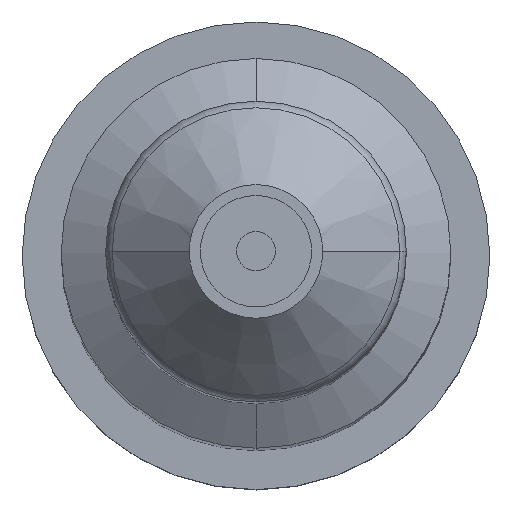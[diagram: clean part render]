
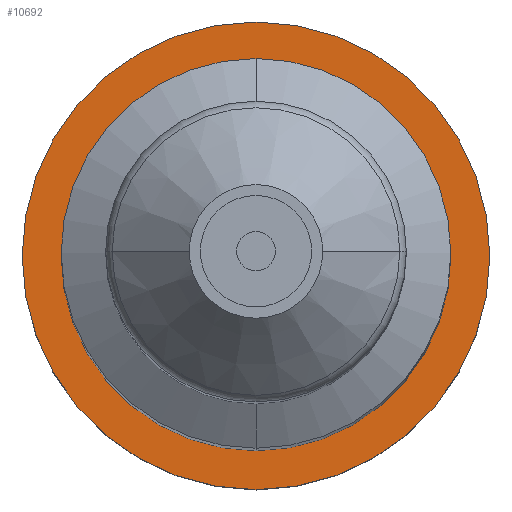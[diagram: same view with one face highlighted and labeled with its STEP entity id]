
A CAD part, top view. The second image highlights one B-rep face of the part: STEP entity #10692.
In plain terms, the highlighted planar face has unit normal (0, 0, 1).
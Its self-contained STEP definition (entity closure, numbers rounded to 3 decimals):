
#846 = FACE_OUTER_BOUND ( 'NONE', #22839, .T. ) ;
#1830 = ORIENTED_EDGE ( 'NONE', *, *, #21666, .F. ) ;
#2147 = VERTEX_POINT ( 'NONE', #26293 ) ;
#3485 = CARTESIAN_POINT ( 'NONE',  ( 0., 0., 15. ) ) ;
#3744 = DIRECTION ( 'NONE',  ( 0., 0., 1. ) ) ;
#3834 = DIRECTION ( 'NONE',  ( -1., 0., 0. ) ) ;
#4795 = DIRECTION ( 'NONE',  ( -1., 0., 0. ) ) ;
#6330 = FACE_BOUND ( 'NONE', #11107, .T. ) ;
#6537 = AXIS2_PLACEMENT_3D ( 'NONE', #8574, #16722, #4795 ) ;
#7598 = EDGE_CURVE ( 'NONE', #18248, #2147, #21792, .T. ) ;
#8081 = DIRECTION ( 'NONE',  ( 1., 0., 0. ) ) ;
#8574 = CARTESIAN_POINT ( 'NONE',  ( 0., 0., 15. ) ) ;
#8688 = CARTESIAN_POINT ( 'NONE',  ( 13.5, 0., 15. ) ) ;
#10692 = ADVANCED_FACE ( 'NONE', ( #6330, #846 ), #16643, .T. ) ;
#11107 = EDGE_LOOP ( 'NONE', ( #1830, #19446 ) ) ;
#11781 = AXIS2_PLACEMENT_3D ( 'NONE', #8688, #12680, #12587 ) ;
#12587 = DIRECTION ( 'NONE',  ( -1., 0., 0. ) ) ;
#12680 = DIRECTION ( 'NONE',  ( 0., 0., 1. ) ) ;
#12789 = ORIENTED_EDGE ( 'NONE', *, *, #22126, .F. ) ;
#13222 = CARTESIAN_POINT ( 'NONE',  ( 0., 0., 15. ) ) ;
#14004 = EDGE_CURVE ( 'NONE', #20734, #14629, #16395, .T. ) ;
#14149 = CIRCLE ( 'NONE', #6537, 17.5 ) ;
#14165 = DIRECTION ( 'NONE',  ( 0., 0., -1. ) ) ;
#14603 = ORIENTED_EDGE ( 'NONE', *, *, #14004, .F. ) ;
#14629 = VERTEX_POINT ( 'NONE', #23928 ) ;
#15304 = DIRECTION ( 'NONE',  ( 0., 0., -1. ) ) ;
#15514 = CARTESIAN_POINT ( 'NONE',  ( 21., 0., 15. ) ) ;
#15742 = CIRCLE ( 'NONE', #20571, 21. ) ;
#16395 = CIRCLE ( 'NONE', #17973, 21. ) ;
#16643 = PLANE ( 'NONE',  #11781 ) ;
#16722 = DIRECTION ( 'NONE',  ( 0., 0., 1. ) ) ;
#16862 = AXIS2_PLACEMENT_3D ( 'NONE', #3485, #3744, #3834 ) ;
#17973 = AXIS2_PLACEMENT_3D ( 'NONE', #13222, #15304, #19635 ) ;
#18248 = VERTEX_POINT ( 'NONE', #25103 ) ;
#19446 = ORIENTED_EDGE ( 'NONE', *, *, #7598, .F. ) ;
#19635 = DIRECTION ( 'NONE',  ( 1., 0., 0. ) ) ;
#20571 = AXIS2_PLACEMENT_3D ( 'NONE', #26345, #14165, #8081 ) ;
#20734 = VERTEX_POINT ( 'NONE', #15514 ) ;
#21666 = EDGE_CURVE ( 'NONE', #2147, #18248, #14149, .T. ) ;
#21792 = CIRCLE ( 'NONE', #16862, 17.5 ) ;
#22126 = EDGE_CURVE ( 'NONE', #14629, #20734, #15742, .T. ) ;
#22839 = EDGE_LOOP ( 'NONE', ( #14603, #12789 ) ) ;
#23928 = CARTESIAN_POINT ( 'NONE',  ( -21., 0., 15. ) ) ;
#25103 = CARTESIAN_POINT ( 'NONE',  ( 0., -17.5, 15. ) ) ;
#26293 = CARTESIAN_POINT ( 'NONE',  ( 0., 17.5, 15. ) ) ;
#26345 = CARTESIAN_POINT ( 'NONE',  ( 0., 0., 15. ) ) ;
